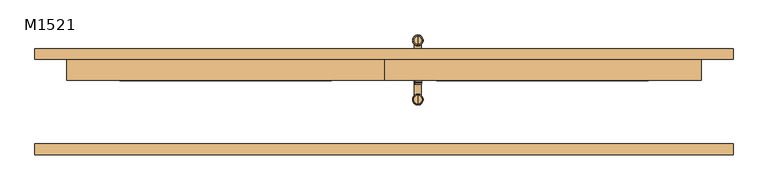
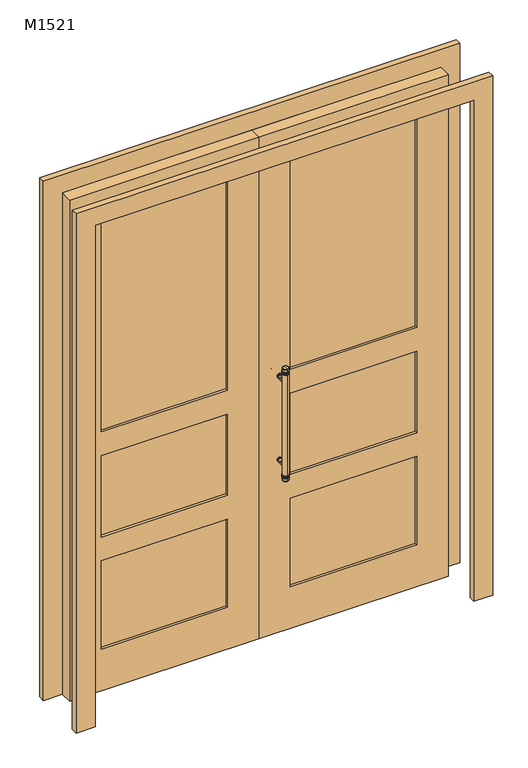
"""IFC4 building model written with IfcOpenShell, lengths in millimetres: door geometry, 双面嵌板木门 2 : M1521."""

from ifc_helpers import new_model, si_unit, point, frame, origin, place, context, project, spatial, polyline, circle_curve, ellipse_curve, trimmed, outline, extrude, source, transform, mapped, element, save
from ifc_brep_helpers import plane_surface, cylinder_surface, revolved_surface, advanced_brep


def m1521_8e1836e7(model_context):
    return source(origin(), model_context, "Body", "SolidModel", [
        advanced_brep(
        [(80.0, 100.0, 1075.0), (72.0, 100.0, 1075.0), (88.0, 100.0, 1075.0), (88.0, 109.0, 1075.0), (72.0, 109.0, 1075.0), (80.0, 109.0, 1075.0), (88.0, 106.0, 1075.0), (72.0, 106.0, 1075.0), (88.0, 103.0, 1075.0), (72.0, 103.0, 1075.0)],
        [
            (0, 1),
            (1, 2, circle_curve(frame((80.0, 100.0, 1075.0), z_axis=(0.0, -1.0, 0.0), x_axis=(-1.0, 0.0, 0.0)), 8.0)),
            (2, 0),
            (2, 1, circle_curve(frame((80.0, 100.0, 1075.0), z_axis=(0.0, -1.0, 0.0), x_axis=(-1.0, 0.0, 0.0)), 8.0)),
            (3, 4, circle_curve(frame((80.0, 109.0, 1075.0), z_axis=(0.0, 1.0, 0.0), x_axis=(-1.0, 0.0, 0.0)), 8.0)),
            (4, 5),
            (5, 3),
            (4, 3, circle_curve(frame((80.0, 109.0, 1075.0), z_axis=(0.0, 1.0, 0.0), x_axis=(-1.0, 0.0, 0.0)), 8.0)),
            (6, 7, circle_curve(frame((80.0, 106.0, 1075.0), z_axis=(0.0, 1.0, 0.0), x_axis=(-1.0, 0.0, 0.0)), 8.0)),
            (7, 4, circle_curve(frame((73.3228757, 107.5, 1075.0), z_axis=(0.0, 0.0, -1.0), x_axis=(-1.0, 0.0, 0.0)), 2.0)),
            (3, 6, circle_curve(frame((86.6771243, 107.5, 1075.0), z_axis=(0.0, 0.0, -1.0), x_axis=(1.0, 0.0, 0.0)), 2.0)),
            (7, 6, circle_curve(frame((80.0, 106.0, 1075.0), z_axis=(0.0, 1.0, 0.0), x_axis=(-1.0, 0.0, 0.0)), 8.0)),
            (8, 9, circle_curve(frame((80.0, 103.0, 1075.0), z_axis=(0.0, 1.0, 0.0), x_axis=(-1.0, 0.0, 0.0)), 8.0)),
            (9, 7, circle_curve(frame((73.3228757, 104.5, 1075.0), z_axis=(0.0, 0.0, -1.0), x_axis=(-1.0, 0.0, 0.0)), 2.0)),
            (6, 8, circle_curve(frame((86.6771243, 104.5, 1075.0), z_axis=(0.0, 0.0, -1.0), x_axis=(1.0, 0.0, 0.0)), 2.0)),
            (9, 8, circle_curve(frame((80.0, 103.0, 1075.0), z_axis=(0.0, 1.0, 0.0), x_axis=(-1.0, 0.0, 0.0)), 8.0)),
            (1, 9, circle_curve(frame((73.3228757, 101.5, 1075.0), z_axis=(0.0, 0.0, -1.0), x_axis=(-1.0, 0.0, 0.0)), 2.0)),
            (8, 2, circle_curve(frame((86.6771243, 101.5, 1075.0), z_axis=(0.0, 0.0, -1.0), x_axis=(1.0, 0.0, 0.0)), 2.0)),
        ],
        [
            plane_surface(frame((80.0, 100.0, 1075.0), z_axis=(0.0, -1.0, 0.0), x_axis=(-1.0, 0.0, 0.0))),
            plane_surface(frame((80.0, 109.0, 1075.0), z_axis=(0.0, 1.0, 0.0), x_axis=(-1.0, 0.0, 0.0))),
            revolved_surface(trimmed(ellipse_curve(frame((73.3228757, 107.5, 1075.0), z_axis=(0.0, 0.0, 1.0), x_axis=(-1.0, 0.0, 0.0)), 2.0, 2.0), [point((72.0, 109.0, 1075.0))], [point((72.0, 106.0, 1075.0))], True, "CARTESIAN"), (80.0, -40.0, 1075.0), (0.0, -1.0, 0.0)),
            revolved_surface(trimmed(ellipse_curve(frame((73.3228757, 104.5, 1075.0), z_axis=(0.0, 0.0, 1.0), x_axis=(-1.0, 0.0, 0.0)), 2.0, 2.0), [point((72.0, 106.0, 1075.0))], [point((72.0, 103.0, 1075.0))], True, "CARTESIAN"), (80.0, -40.0, 1075.0), (0.0, -1.0, 0.0)),
            revolved_surface(trimmed(ellipse_curve(frame((73.3228757, 101.5, 1075.0), z_axis=(0.0, 0.0, 1.0), x_axis=(-1.0, 0.0, 0.0)), 2.0, 2.0), [point((72.0, 103.0, 1075.0))], [point((72.0, 100.0, 1075.0))], True, "CARTESIAN"), (80.0, -40.0, 1075.0), (0.0, -1.0, 0.0)),
        ],
        [
            (0, [[1, 2, 3]]),
            (0, [[-3, 4, -1]]),
            (1, [[5, 6, 7]]),
            (1, [[8, -7, -6]]),
            (2, [[9, 10, -5, 11]]),
            (2, [[12, -11, -8, -10]]),
            (3, [[13, 14, -9, 15]]),
            (3, [[16, -15, -12, -14]]),
            (4, [[-2, 17, -13, 18]]),
            (4, [[-4, -18, -16, -17]]),
        ],
    ),
        advanced_brep(
        [(88.0, 47.0, 1075.0), (72.0, 47.0, 1075.0), (72.0, 50.0, 1075.0), (88.0, 50.0, 1075.0), (88.0, 44.0, 1075.0), (72.0, 44.0, 1075.0), (88.0, 41.0, 1075.0), (72.0, 41.0, 1075.0), (80.0, 41.0, 1075.0), (80.0, 50.0, 1075.0)],
        [
            (0, 1, circle_curve(frame((80.0, 47.0, 1075.0), z_axis=(0.0, 1.0, 0.0), x_axis=(-1.0, 0.0, 0.0)), 8.0)),
            (1, 2, circle_curve(frame((73.3228757, 48.5, 1075.0), z_axis=(0.0, 0.0, -1.0), x_axis=(-1.0, 0.0, 0.0)), 2.0)),
            (2, 3, circle_curve(frame((80.0, 50.0, 1075.0), z_axis=(0.0, -1.0, 0.0), x_axis=(-1.0, 0.0, 0.0)), 8.0)),
            (3, 0, circle_curve(frame((86.6771243, 48.5, 1075.0), z_axis=(0.0, 0.0, -1.0), x_axis=(1.0, 0.0, 0.0)), 2.0)),
            (1, 0, circle_curve(frame((80.0, 47.0, 1075.0), z_axis=(0.0, 1.0, 0.0), x_axis=(-1.0, 0.0, 0.0)), 8.0)),
            (3, 2, circle_curve(frame((80.0, 50.0, 1075.0), z_axis=(0.0, -1.0, 0.0), x_axis=(-1.0, 0.0, 0.0)), 8.0)),
            (4, 5, circle_curve(frame((80.0, 44.0, 1075.0), z_axis=(0.0, 1.0, 0.0), x_axis=(-1.0, 0.0, 0.0)), 8.0)),
            (5, 1, circle_curve(frame((73.3228757, 45.5, 1075.0), z_axis=(0.0, 0.0, -1.0), x_axis=(-1.0, 0.0, 0.0)), 2.0)),
            (0, 4, circle_curve(frame((86.6771243, 45.5, 1075.0), z_axis=(0.0, 0.0, -1.0), x_axis=(1.0, 0.0, 0.0)), 2.0)),
            (5, 4, circle_curve(frame((80.0, 44.0, 1075.0), z_axis=(0.0, 1.0, 0.0), x_axis=(-1.0, 0.0, 0.0)), 8.0)),
            (6, 7, circle_curve(frame((80.0, 41.0, 1075.0), z_axis=(0.0, 1.0, 0.0), x_axis=(-1.0, 0.0, 0.0)), 8.0)),
            (7, 5, circle_curve(frame((73.3228757, 42.5, 1075.0), z_axis=(0.0, 0.0, -1.0), x_axis=(-1.0, 0.0, 0.0)), 2.0)),
            (4, 6, circle_curve(frame((86.6771243, 42.5, 1075.0), z_axis=(0.0, 0.0, -1.0), x_axis=(1.0, 0.0, 0.0)), 2.0)),
            (7, 6, circle_curve(frame((80.0, 41.0, 1075.0), z_axis=(0.0, 1.0, 0.0), x_axis=(-1.0, 0.0, 0.0)), 8.0)),
            (8, 7),
            (6, 8),
            (2, 9),
            (9, 3),
        ],
        [
            revolved_surface(trimmed(ellipse_curve(frame((73.3228757, 48.5, 1075.0), z_axis=(0.0, 0.0, 1.0), x_axis=(-1.0, 0.0, 0.0)), 2.0, 2.0), [point((72.0, 50.0, 1075.0))], [point((72.0, 47.0, 1075.0))], True, "CARTESIAN"), (80.0, -40.0, 1075.0), (0.0, -1.0, 0.0)),
            revolved_surface(trimmed(ellipse_curve(frame((73.3228757, 45.5, 1075.0), z_axis=(0.0, 0.0, 1.0), x_axis=(-1.0, 0.0, 0.0)), 2.0, 2.0), [point((72.0, 47.0, 1075.0))], [point((72.0, 44.0, 1075.0))], True, "CARTESIAN"), (80.0, -40.0, 1075.0), (0.0, -1.0, 0.0)),
            revolved_surface(trimmed(ellipse_curve(frame((73.3228757, 42.5, 1075.0), z_axis=(0.0, 0.0, 1.0), x_axis=(-1.0, 0.0, 0.0)), 2.0, 2.0), [point((72.0, 44.0, 1075.0))], [point((72.0, 41.0, 1075.0))], True, "CARTESIAN"), (80.0, -40.0, 1075.0), (0.0, -1.0, 0.0)),
            plane_surface(frame((80.0, 41.0, 1075.0), z_axis=(0.0, -1.0, 0.0), x_axis=(-1.0, 0.0, 0.0))),
            plane_surface(frame((80.0, 50.0, 1075.0), z_axis=(0.0, 1.0, 0.0), x_axis=(-1.0, 0.0, 0.0))),
        ],
        [
            (0, [[1, 2, 3, 4]]),
            (0, [[5, -4, 6, -2]]),
            (1, [[7, 8, -1, 9]]),
            (1, [[10, -9, -5, -8]]),
            (2, [[11, 12, -7, 13]]),
            (2, [[14, -13, -10, -12]]),
            (3, [[15, -11, 16]]),
            (3, [[-16, -14, -15]]),
            (4, [[-3, 17, 18]]),
            (4, [[-6, -18, -17]]),
        ],
    ),
        advanced_brep(
        [(80.0, 100.0, 725.0), (72.0, 100.0, 725.0), (88.0, 100.0, 725.0), (88.0, 109.0, 725.0), (72.0, 109.0, 725.0), (80.0, 109.0, 725.0), (88.0, 106.0, 725.0), (72.0, 106.0, 725.0), (88.0, 103.0, 725.0), (72.0, 103.0, 725.0)],
        [
            (0, 1),
            (1, 2, circle_curve(frame((80.0, 100.0, 725.0), z_axis=(0.0, -1.0, 0.0), x_axis=(-1.0, 0.0, 0.0)), 8.0)),
            (2, 0),
            (2, 1, circle_curve(frame((80.0, 100.0, 725.0), z_axis=(0.0, -1.0, 0.0), x_axis=(-1.0, 0.0, 0.0)), 8.0)),
            (3, 4, circle_curve(frame((80.0, 109.0, 725.0), z_axis=(0.0, 1.0, 0.0), x_axis=(-1.0, 0.0, 0.0)), 8.0)),
            (4, 5),
            (5, 3),
            (4, 3, circle_curve(frame((80.0, 109.0, 725.0), z_axis=(0.0, 1.0, 0.0), x_axis=(-1.0, 0.0, 0.0)), 8.0)),
            (6, 7, circle_curve(frame((80.0, 106.0, 725.0), z_axis=(0.0, 1.0, 0.0), x_axis=(-1.0, 0.0, 0.0)), 8.0)),
            (7, 4, circle_curve(frame((73.3228757, 107.5, 725.0), z_axis=(0.0, 0.0, -1.0), x_axis=(-1.0, 0.0, 0.0)), 2.0)),
            (3, 6, circle_curve(frame((86.6771243, 107.5, 725.0), z_axis=(0.0, 0.0, -1.0), x_axis=(1.0, 0.0, 0.0)), 2.0)),
            (7, 6, circle_curve(frame((80.0, 106.0, 725.0), z_axis=(0.0, 1.0, 0.0), x_axis=(-1.0, 0.0, 0.0)), 8.0)),
            (8, 9, circle_curve(frame((80.0, 103.0, 725.0), z_axis=(0.0, 1.0, 0.0), x_axis=(-1.0, 0.0, 0.0)), 8.0)),
            (9, 7, circle_curve(frame((73.3228757, 104.5, 725.0), z_axis=(0.0, 0.0, -1.0), x_axis=(-1.0, 0.0, 0.0)), 2.0)),
            (6, 8, circle_curve(frame((86.6771243, 104.5, 725.0), z_axis=(0.0, 0.0, -1.0), x_axis=(1.0, 0.0, 0.0)), 2.0)),
            (9, 8, circle_curve(frame((80.0, 103.0, 725.0), z_axis=(0.0, 1.0, 0.0), x_axis=(-1.0, 0.0, 0.0)), 8.0)),
            (1, 9, circle_curve(frame((73.3228757, 101.5, 725.0), z_axis=(0.0, 0.0, -1.0), x_axis=(-1.0, 0.0, 0.0)), 2.0)),
            (8, 2, circle_curve(frame((86.6771243, 101.5, 725.0), z_axis=(0.0, 0.0, -1.0), x_axis=(1.0, 0.0, 0.0)), 2.0)),
        ],
        [
            plane_surface(frame((80.0, 100.0, 725.0), z_axis=(0.0, -1.0, 0.0), x_axis=(-1.0, 0.0, 0.0))),
            plane_surface(frame((80.0, 109.0, 725.0), z_axis=(0.0, 1.0, 0.0), x_axis=(-1.0, 0.0, 0.0))),
            revolved_surface(trimmed(ellipse_curve(frame((73.3228757, 107.5, 725.0), z_axis=(0.0, 0.0, 1.0), x_axis=(-1.0, 0.0, 0.0)), 2.0, 2.0), [point((72.0, 109.0, 725.0))], [point((72.0, 106.0, 725.0))], True, "CARTESIAN"), (80.0, -40.0, 725.0), (0.0, -1.0, 0.0)),
            revolved_surface(trimmed(ellipse_curve(frame((73.3228757, 104.5, 725.0), z_axis=(0.0, 0.0, 1.0), x_axis=(-1.0, 0.0, 0.0)), 2.0, 2.0), [point((72.0, 106.0, 725.0))], [point((72.0, 103.0, 725.0))], True, "CARTESIAN"), (80.0, -40.0, 725.0), (0.0, -1.0, 0.0)),
            revolved_surface(trimmed(ellipse_curve(frame((73.3228757, 101.5, 725.0), z_axis=(0.0, 0.0, 1.0), x_axis=(-1.0, 0.0, 0.0)), 2.0, 2.0), [point((72.0, 103.0, 725.0))], [point((72.0, 100.0, 725.0))], True, "CARTESIAN"), (80.0, -40.0, 725.0), (0.0, -1.0, 0.0)),
        ],
        [
            (0, [[1, 2, 3]]),
            (0, [[-3, 4, -1]]),
            (1, [[5, 6, 7]]),
            (1, [[8, -7, -6]]),
            (2, [[9, 10, -5, 11]]),
            (2, [[12, -11, -8, -10]]),
            (3, [[13, 14, -9, 15]]),
            (3, [[16, -15, -12, -14]]),
            (4, [[-2, 17, -13, 18]]),
            (4, [[-4, -18, -16, -17]]),
        ],
    ),
        advanced_brep(
        [(88.0, 47.0, 725.0), (72.0, 47.0, 725.0), (72.0, 50.0, 725.0), (88.0, 50.0, 725.0), (88.0, 44.0, 725.0), (72.0, 44.0, 725.0), (88.0, 41.0, 725.0), (72.0, 41.0, 725.0), (80.0, 41.0, 725.0), (80.0, 50.0, 725.0)],
        [
            (0, 1, circle_curve(frame((80.0, 47.0, 725.0), z_axis=(0.0, 1.0, 0.0), x_axis=(-1.0, 0.0, 0.0)), 8.0)),
            (1, 2, circle_curve(frame((73.3228757, 48.5, 725.0), z_axis=(0.0, 0.0, -1.0), x_axis=(-1.0, 0.0, 0.0)), 2.0)),
            (2, 3, circle_curve(frame((80.0, 50.0, 725.0), z_axis=(0.0, -1.0, 0.0), x_axis=(-1.0, 0.0, 0.0)), 8.0)),
            (3, 0, circle_curve(frame((86.6771243, 48.5, 725.0), z_axis=(0.0, 0.0, -1.0), x_axis=(1.0, 0.0, 0.0)), 2.0)),
            (1, 0, circle_curve(frame((80.0, 47.0, 725.0), z_axis=(0.0, 1.0, 0.0), x_axis=(-1.0, 0.0, 0.0)), 8.0)),
            (3, 2, circle_curve(frame((80.0, 50.0, 725.0), z_axis=(0.0, -1.0, 0.0), x_axis=(-1.0, 0.0, 0.0)), 8.0)),
            (4, 5, circle_curve(frame((80.0, 44.0, 725.0), z_axis=(0.0, 1.0, 0.0), x_axis=(-1.0, 0.0, 0.0)), 8.0)),
            (5, 1, circle_curve(frame((73.3228757, 45.5, 725.0), z_axis=(0.0, 0.0, -1.0), x_axis=(-1.0, 0.0, 0.0)), 2.0)),
            (0, 4, circle_curve(frame((86.6771243, 45.5, 725.0), z_axis=(0.0, 0.0, -1.0), x_axis=(1.0, 0.0, 0.0)), 2.0)),
            (5, 4, circle_curve(frame((80.0, 44.0, 725.0), z_axis=(0.0, 1.0, 0.0), x_axis=(-1.0, 0.0, 0.0)), 8.0)),
            (6, 7, circle_curve(frame((80.0, 41.0, 725.0), z_axis=(0.0, 1.0, 0.0), x_axis=(-1.0, 0.0, 0.0)), 8.0)),
            (7, 5, circle_curve(frame((73.3228757, 42.5, 725.0), z_axis=(0.0, 0.0, -1.0), x_axis=(-1.0, 0.0, 0.0)), 2.0)),
            (4, 6, circle_curve(frame((86.6771243, 42.5, 725.0), z_axis=(0.0, 0.0, -1.0), x_axis=(1.0, 0.0, 0.0)), 2.0)),
            (7, 6, circle_curve(frame((80.0, 41.0, 725.0), z_axis=(0.0, 1.0, 0.0), x_axis=(-1.0, 0.0, 0.0)), 8.0)),
            (8, 7),
            (6, 8),
            (2, 9),
            (9, 3),
        ],
        [
            revolved_surface(trimmed(ellipse_curve(frame((73.3228757, 48.5, 725.0), z_axis=(0.0, 0.0, 1.0), x_axis=(-1.0, 0.0, 0.0)), 2.0, 2.0), [point((72.0, 50.0, 725.0))], [point((72.0, 47.0, 725.0))], True, "CARTESIAN"), (80.0, -40.0, 725.0), (0.0, -1.0, 0.0)),
            revolved_surface(trimmed(ellipse_curve(frame((73.3228757, 45.5, 725.0), z_axis=(0.0, 0.0, 1.0), x_axis=(-1.0, 0.0, 0.0)), 2.0, 2.0), [point((72.0, 47.0, 725.0))], [point((72.0, 44.0, 725.0))], True, "CARTESIAN"), (80.0, -40.0, 725.0), (0.0, -1.0, 0.0)),
            revolved_surface(trimmed(ellipse_curve(frame((73.3228757, 42.5, 725.0), z_axis=(0.0, 0.0, 1.0), x_axis=(-1.0, 0.0, 0.0)), 2.0, 2.0), [point((72.0, 44.0, 725.0))], [point((72.0, 41.0, 725.0))], True, "CARTESIAN"), (80.0, -40.0, 725.0), (0.0, -1.0, 0.0)),
            plane_surface(frame((80.0, 41.0, 725.0), z_axis=(0.0, -1.0, 0.0), x_axis=(-1.0, 0.0, 0.0))),
            plane_surface(frame((80.0, 50.0, 725.0), z_axis=(0.0, 1.0, 0.0), x_axis=(-1.0, 0.0, 0.0))),
        ],
        [
            (0, [[1, 2, 3, 4]]),
            (0, [[5, -4, 6, -2]]),
            (1, [[7, 8, -1, 9]]),
            (1, [[10, -9, -5, -8]]),
            (2, [[11, 12, -7, 13]]),
            (2, [[14, -13, -10, -12]]),
            (3, [[15, -11, 16]]),
            (3, [[-16, -14, -15]]),
            (4, [[-3, 17, 18]]),
            (4, [[-6, -18, -17]]),
        ],
    ),
        advanced_brep(
        [(80.0, 133.0, 1111.0), (80.0, 157.0, 1111.0), (80.0, 145.0, 1111.0), (80.0, 133.0, 1114.0), (80.0, 157.0, 1114.0), (80.0, 133.0, 1117.0), (80.0, 157.0, 1117.0), (80.0, 133.0, 1120.0), (80.0, 157.0, 1120.0), (80.0, 133.0, 1123.0), (80.0, 157.0, 1123.0), (80.0, 145.0, 1123.0)],
        [
            (0, 1, circle_curve(frame((80.0, 145.0, 1111.0), z_axis=(0.0, 0.0, -1.0), x_axis=(0.0, 1.0, 0.0)), 12.0)),
            (1, 2),
            (2, 0),
            (1, 0, circle_curve(frame((80.0, 145.0, 1111.0), z_axis=(0.0, 0.0, -1.0), x_axis=(0.0, 1.0, 0.0)), 12.0)),
            (3, 4, circle_curve(frame((80.0, 145.0, 1114.0), z_axis=(0.0, 0.0, -1.0), x_axis=(0.0, 1.0, 0.0)), 12.0)),
            (4, 1, circle_curve(frame((80.0, 155.6771243, 1112.5), z_axis=(-1.0, 0.0, 0.0), x_axis=(0.0, 1.0, 0.0)), 2.0)),
            (0, 3, circle_curve(frame((80.0, 134.3228757, 1112.5), z_axis=(-1.0, 0.0, 0.0), x_axis=(0.0, -1.0, 0.0)), 2.0)),
            (4, 3, circle_curve(frame((80.0, 145.0, 1114.0), z_axis=(0.0, 0.0, -1.0), x_axis=(0.0, 1.0, 0.0)), 12.0)),
            (5, 6, circle_curve(frame((80.0, 145.0, 1117.0), z_axis=(0.0, 0.0, -1.0), x_axis=(0.0, 1.0, 0.0)), 12.0)),
            (6, 4, circle_curve(frame((80.0, 155.6771243, 1115.5), z_axis=(-1.0, 0.0, 0.0), x_axis=(0.0, 1.0, 0.0)), 2.0)),
            (3, 5, circle_curve(frame((80.0, 134.3228757, 1115.5), z_axis=(-1.0, 0.0, 0.0), x_axis=(0.0, -1.0, 0.0)), 2.0)),
            (6, 5, circle_curve(frame((80.0, 145.0, 1117.0), z_axis=(0.0, 0.0, -1.0), x_axis=(0.0, 1.0, 0.0)), 12.0)),
            (7, 8, circle_curve(frame((80.0, 145.0, 1120.0), z_axis=(0.0, 0.0, -1.0), x_axis=(0.0, 1.0, 0.0)), 12.0)),
            (8, 6, circle_curve(frame((80.0, 155.6771243, 1118.5), z_axis=(-1.0, 0.0, 0.0), x_axis=(0.0, 1.0, 0.0)), 2.0)),
            (5, 7, circle_curve(frame((80.0, 134.3228757, 1118.5), z_axis=(-1.0, 0.0, 0.0), x_axis=(0.0, -1.0, 0.0)), 2.0)),
            (8, 7, circle_curve(frame((80.0, 145.0, 1120.0), z_axis=(0.0, 0.0, -1.0), x_axis=(0.0, 1.0, 0.0)), 12.0)),
            (9, 10, circle_curve(frame((80.0, 145.0, 1123.0), z_axis=(0.0, 0.0, -1.0), x_axis=(0.0, 1.0, 0.0)), 12.0)),
            (10, 8, circle_curve(frame((80.0, 155.6771243, 1121.5), z_axis=(-1.0, 0.0, 0.0), x_axis=(0.0, 1.0, 0.0)), 2.0)),
            (7, 9, circle_curve(frame((80.0, 134.3228757, 1121.5), z_axis=(-1.0, 0.0, 0.0), x_axis=(0.0, -1.0, 0.0)), 2.0)),
            (10, 9, circle_curve(frame((80.0, 145.0, 1123.0), z_axis=(0.0, 0.0, -1.0), x_axis=(0.0, 1.0, 0.0)), 12.0)),
            (11, 10),
            (9, 11),
        ],
        [
            plane_surface(frame((80.0, 145.0, 1111.0), z_axis=(0.0, 0.0, -1.0), x_axis=(0.0, 1.0, 0.0))),
            revolved_surface(trimmed(ellipse_curve(frame((80.0, 155.6771243, 1112.5), z_axis=(1.0, 0.0, 0.0), x_axis=(0.0, 1.0, 0.0)), 2.0, 2.0), [point((80.0, 157.0, 1111.0))], [point((80.0, 157.0, 1114.0))], True, "CARTESIAN"), (80.0, 145.0, 715.0), (0.0, 0.0, 1.0)),
            revolved_surface(trimmed(ellipse_curve(frame((80.0, 155.6771243, 1115.5), z_axis=(1.0, 0.0, 0.0), x_axis=(0.0, 1.0, 0.0)), 2.0, 2.0), [point((80.0, 157.0, 1114.0))], [point((80.0, 157.0, 1117.0))], True, "CARTESIAN"), (80.0, 145.0, 715.0), (0.0, 0.0, 1.0)),
            revolved_surface(trimmed(ellipse_curve(frame((80.0, 155.6771243, 1118.5), z_axis=(1.0, 0.0, 0.0), x_axis=(0.0, 1.0, 0.0)), 2.0, 2.0), [point((80.0, 157.0, 1117.0))], [point((80.0, 157.0, 1120.0))], True, "CARTESIAN"), (80.0, 145.0, 715.0), (0.0, 0.0, 1.0)),
            revolved_surface(trimmed(ellipse_curve(frame((80.0, 155.6771243, 1121.5), z_axis=(1.0, 0.0, 0.0), x_axis=(0.0, 1.0, 0.0)), 2.0, 2.0), [point((80.0, 157.0, 1120.0))], [point((80.0, 157.0, 1123.0))], True, "CARTESIAN"), (80.0, 145.0, 715.0), (0.0, 0.0, 1.0)),
            plane_surface(frame((80.0, 145.0, 1123.0), z_axis=(0.0, 0.0, 1.0), x_axis=(0.0, 1.0, 0.0))),
        ],
        [
            (0, [[1, 2, 3]]),
            (0, [[4, -3, -2]]),
            (1, [[5, 6, -1, 7]]),
            (1, [[8, -7, -4, -6]]),
            (2, [[9, 10, -5, 11]]),
            (2, [[12, -11, -8, -10]]),
            (3, [[13, 14, -9, 15]]),
            (3, [[16, -15, -12, -14]]),
            (4, [[17, 18, -13, 19]]),
            (4, [[20, -19, -16, -18]]),
            (5, [[21, -17, 22]]),
            (5, [[-22, -20, -21]]),
        ],
    ),
        advanced_brep(
        [(80.0, 133.0, 677.0), (80.0, 157.0, 677.0), (80.0, 145.0, 677.0), (80.0, 133.0, 680.0), (80.0, 157.0, 680.0), (80.0, 133.0, 683.0), (80.0, 157.0, 683.0), (80.0, 133.0, 686.0), (80.0, 157.0, 686.0), (80.0, 133.0, 689.0), (80.0, 157.0, 689.0), (80.0, 145.0, 689.0)],
        [
            (0, 1, circle_curve(frame((80.0, 145.0, 677.0), z_axis=(0.0, 0.0, -1.0), x_axis=(0.0, 1.0, 0.0)), 12.0)),
            (1, 2),
            (2, 0),
            (1, 0, circle_curve(frame((80.0, 145.0, 677.0), z_axis=(0.0, 0.0, -1.0), x_axis=(0.0, 1.0, 0.0)), 12.0)),
            (3, 4, circle_curve(frame((80.0, 145.0, 680.0), z_axis=(0.0, 0.0, -1.0), x_axis=(0.0, 1.0, 0.0)), 12.0)),
            (4, 1, circle_curve(frame((80.0, 155.6771243, 678.5), z_axis=(-1.0, 0.0, 0.0), x_axis=(0.0, 1.0, 0.0)), 2.0)),
            (0, 3, circle_curve(frame((80.0, 134.3228757, 678.5), z_axis=(-1.0, 0.0, 0.0), x_axis=(0.0, -1.0, 0.0)), 2.0)),
            (4, 3, circle_curve(frame((80.0, 145.0, 680.0), z_axis=(0.0, 0.0, -1.0), x_axis=(0.0, 1.0, 0.0)), 12.0)),
            (5, 6, circle_curve(frame((80.0, 145.0, 683.0), z_axis=(0.0, 0.0, -1.0), x_axis=(0.0, 1.0, 0.0)), 12.0)),
            (6, 4, circle_curve(frame((80.0, 155.6771243, 681.5), z_axis=(-1.0, 0.0, 0.0), x_axis=(0.0, 1.0, 0.0)), 2.0)),
            (3, 5, circle_curve(frame((80.0, 134.3228757, 681.5), z_axis=(-1.0, 0.0, 0.0), x_axis=(0.0, -1.0, 0.0)), 2.0)),
            (6, 5, circle_curve(frame((80.0, 145.0, 683.0), z_axis=(0.0, 0.0, -1.0), x_axis=(0.0, 1.0, 0.0)), 12.0)),
            (7, 8, circle_curve(frame((80.0, 145.0, 686.0), z_axis=(0.0, 0.0, -1.0), x_axis=(0.0, 1.0, 0.0)), 12.0)),
            (8, 6, circle_curve(frame((80.0, 155.6771243, 684.5), z_axis=(-1.0, 0.0, 0.0), x_axis=(0.0, 1.0, 0.0)), 2.0)),
            (5, 7, circle_curve(frame((80.0, 134.3228757, 684.5), z_axis=(-1.0, 0.0, 0.0), x_axis=(0.0, -1.0, 0.0)), 2.0)),
            (8, 7, circle_curve(frame((80.0, 145.0, 686.0), z_axis=(0.0, 0.0, -1.0), x_axis=(0.0, 1.0, 0.0)), 12.0)),
            (9, 10, circle_curve(frame((80.0, 145.0, 689.0), z_axis=(0.0, 0.0, -1.0), x_axis=(0.0, 1.0, 0.0)), 12.0)),
            (10, 8, circle_curve(frame((80.0, 155.6771243, 687.5), z_axis=(-1.0, 0.0, 0.0), x_axis=(0.0, 1.0, 0.0)), 2.0)),
            (7, 9, circle_curve(frame((80.0, 134.3228757, 687.5), z_axis=(-1.0, 0.0, 0.0), x_axis=(0.0, -1.0, 0.0)), 2.0)),
            (10, 9, circle_curve(frame((80.0, 145.0, 689.0), z_axis=(0.0, 0.0, -1.0), x_axis=(0.0, 1.0, 0.0)), 12.0)),
            (11, 10),
            (9, 11),
        ],
        [
            plane_surface(frame((80.0, 145.0, 677.0), z_axis=(0.0, 0.0, -1.0), x_axis=(0.0, 1.0, 0.0))),
            revolved_surface(trimmed(ellipse_curve(frame((80.0, 155.6771243, 678.5), z_axis=(1.0, 0.0, 0.0), x_axis=(0.0, 1.0, 0.0)), 2.0, 2.0), [point((80.0, 157.0, 677.0))], [point((80.0, 157.0, 680.0))], True, "CARTESIAN"), (80.0, 145.0, 715.0), (0.0, 0.0, 1.0)),
            revolved_surface(trimmed(ellipse_curve(frame((80.0, 155.6771243, 681.5), z_axis=(1.0, 0.0, 0.0), x_axis=(0.0, 1.0, 0.0)), 2.0, 2.0), [point((80.0, 157.0, 680.0))], [point((80.0, 157.0, 683.0))], True, "CARTESIAN"), (80.0, 145.0, 715.0), (0.0, 0.0, 1.0)),
            revolved_surface(trimmed(ellipse_curve(frame((80.0, 155.6771243, 684.5), z_axis=(1.0, 0.0, 0.0), x_axis=(0.0, 1.0, 0.0)), 2.0, 2.0), [point((80.0, 157.0, 683.0))], [point((80.0, 157.0, 686.0))], True, "CARTESIAN"), (80.0, 145.0, 715.0), (0.0, 0.0, 1.0)),
            revolved_surface(trimmed(ellipse_curve(frame((80.0, 155.6771243, 687.5), z_axis=(1.0, 0.0, 0.0), x_axis=(0.0, 1.0, 0.0)), 2.0, 2.0), [point((80.0, 157.0, 686.0))], [point((80.0, 157.0, 689.0))], True, "CARTESIAN"), (80.0, 145.0, 715.0), (0.0, 0.0, 1.0)),
            plane_surface(frame((80.0, 145.0, 689.0), z_axis=(0.0, 0.0, 1.0), x_axis=(0.0, 1.0, 0.0))),
        ],
        [
            (0, [[1, 2, 3]]),
            (0, [[4, -3, -2]]),
            (1, [[5, 6, -1, 7]]),
            (1, [[8, -7, -4, -6]]),
            (2, [[9, 10, -5, 11]]),
            (2, [[12, -11, -8, -10]]),
            (3, [[13, 14, -9, 15]]),
            (3, [[16, -15, -12, -14]]),
            (4, [[17, 18, -13, 19]]),
            (4, [[20, -19, -16, -18]]),
            (5, [[21, -17, 22]]),
            (5, [[-22, -20, -21]]),
        ],
    ),
        advanced_brep(
        [(80.0, 17.0, 1119.8958565), (80.0, -7.0, 1119.8958565), (80.0, -7.0, 1122.8958565), (80.0, 17.0, 1122.8958565), (80.0, 17.0, 1116.8958565), (80.0, -7.0, 1116.8958565), (80.0, 17.0, 1113.8958565), (80.0, -7.0, 1113.8958565), (80.0, 17.0, 1110.8958565), (80.0, -7.0, 1110.8958565), (80.0, 5.0, 1110.8958565), (80.0, 5.0, 1122.8958565)],
        [
            (0, 1, circle_curve(frame((80.0, 5.0, 1119.8958565), z_axis=(0.0, 0.0, 1.0), x_axis=(0.0, -1.0, 0.0)), 12.0)),
            (1, 2, circle_curve(frame((80.0, -5.6771243, 1121.3958565), z_axis=(-1.0, 0.0, 0.0), x_axis=(0.0, 1.0, 0.0)), 2.0)),
            (2, 3, circle_curve(frame((80.0, 5.0, 1122.8958565), z_axis=(0.0, 0.0, -1.0), x_axis=(0.0, -1.0, 0.0)), 12.0)),
            (3, 0, circle_curve(frame((80.0, 15.6771243, 1121.3958565), z_axis=(-1.0, 0.0, 0.0), x_axis=(0.0, -1.0, 0.0)), 2.0)),
            (1, 0, circle_curve(frame((80.0, 5.0, 1119.8958565), z_axis=(0.0, 0.0, 1.0), x_axis=(0.0, -1.0, 0.0)), 12.0)),
            (3, 2, circle_curve(frame((80.0, 5.0, 1122.8958565), z_axis=(0.0, 0.0, -1.0), x_axis=(0.0, -1.0, 0.0)), 12.0)),
            (4, 5, circle_curve(frame((80.0, 5.0, 1116.8958565), z_axis=(0.0, 0.0, 1.0), x_axis=(0.0, -1.0, 0.0)), 12.0)),
            (5, 1, circle_curve(frame((80.0, -5.6771243, 1118.3958565), z_axis=(-1.0, 0.0, 0.0), x_axis=(0.0, 1.0, 0.0)), 2.0)),
            (0, 4, circle_curve(frame((80.0, 15.6771243, 1118.3958565), z_axis=(-1.0, 0.0, 0.0), x_axis=(0.0, -1.0, 0.0)), 2.0)),
            (5, 4, circle_curve(frame((80.0, 5.0, 1116.8958565), z_axis=(0.0, 0.0, 1.0), x_axis=(0.0, -1.0, 0.0)), 12.0)),
            (6, 7, circle_curve(frame((80.0, 5.0, 1113.8958565), z_axis=(0.0, 0.0, 1.0), x_axis=(0.0, -1.0, 0.0)), 12.0)),
            (7, 5, circle_curve(frame((80.0, -5.6771243, 1115.3958565), z_axis=(-1.0, 0.0, 0.0), x_axis=(0.0, 1.0, 0.0)), 2.0)),
            (4, 6, circle_curve(frame((80.0, 15.6771243, 1115.3958565), z_axis=(-1.0, 0.0, 0.0), x_axis=(0.0, -1.0, 0.0)), 2.0)),
            (7, 6, circle_curve(frame((80.0, 5.0, 1113.8958565), z_axis=(0.0, 0.0, 1.0), x_axis=(0.0, -1.0, 0.0)), 12.0)),
            (8, 9, circle_curve(frame((80.0, 5.0, 1110.8958565), z_axis=(0.0, 0.0, 1.0), x_axis=(0.0, -1.0, 0.0)), 12.0)),
            (9, 7, circle_curve(frame((80.0, -5.6771243, 1112.3958565), z_axis=(-1.0, 0.0, 0.0), x_axis=(0.0, 1.0, 0.0)), 2.0)),
            (6, 8, circle_curve(frame((80.0, 15.6771243, 1112.3958565), z_axis=(-1.0, 0.0, 0.0), x_axis=(0.0, -1.0, 0.0)), 2.0)),
            (9, 8, circle_curve(frame((80.0, 5.0, 1110.8958565), z_axis=(0.0, 0.0, 1.0), x_axis=(0.0, -1.0, 0.0)), 12.0)),
            (10, 9),
            (8, 10),
            (2, 11),
            (11, 3),
        ],
        [
            revolved_surface(trimmed(ellipse_curve(frame((80.0, -5.6771243, 1121.3958565), z_axis=(1.0, 0.0, 0.0), x_axis=(0.0, 1.0, 0.0)), 2.0, 2.0), [point((80.0, -7.0, 1122.8958565))], [point((80.0, -7.0, 1119.8958565))], True, "CARTESIAN"), (80.0, 5.0, 715.0), (0.0, 0.0, -1.0)),
            revolved_surface(trimmed(ellipse_curve(frame((80.0, -5.6771243, 1118.3958565), z_axis=(1.0, 0.0, 0.0), x_axis=(0.0, 1.0, 0.0)), 2.0, 2.0), [point((80.0, -7.0, 1119.8958565))], [point((80.0, -7.0, 1116.8958565))], True, "CARTESIAN"), (80.0, 5.0, 715.0), (0.0, 0.0, -1.0)),
            revolved_surface(trimmed(ellipse_curve(frame((80.0, -5.6771243, 1115.3958565), z_axis=(1.0, 0.0, 0.0), x_axis=(0.0, 1.0, 0.0)), 2.0, 2.0), [point((80.0, -7.0, 1116.8958565))], [point((80.0, -7.0, 1113.8958565))], True, "CARTESIAN"), (80.0, 5.0, 715.0), (0.0, 0.0, -1.0)),
            revolved_surface(trimmed(ellipse_curve(frame((80.0, -5.6771243, 1112.3958565), z_axis=(1.0, 0.0, 0.0), x_axis=(0.0, 1.0, 0.0)), 2.0, 2.0), [point((80.0, -7.0, 1113.8958565))], [point((80.0, -7.0, 1110.8958565))], True, "CARTESIAN"), (80.0, 5.0, 715.0), (0.0, 0.0, -1.0)),
            plane_surface(frame((80.0, 5.0, 1110.8958565), z_axis=(0.0, 0.0, -1.0), x_axis=(0.0, -1.0, 0.0))),
            plane_surface(frame((80.0, 5.0, 1122.8958565), z_axis=(0.0, 0.0, 1.0), x_axis=(0.0, -1.0, 0.0))),
        ],
        [
            (0, [[1, 2, 3, 4]]),
            (0, [[5, -4, 6, -2]]),
            (1, [[7, 8, -1, 9]]),
            (1, [[10, -9, -5, -8]]),
            (2, [[11, 12, -7, 13]]),
            (2, [[14, -13, -10, -12]]),
            (3, [[15, 16, -11, 17]]),
            (3, [[18, -17, -14, -16]]),
            (4, [[19, -15, 20]]),
            (4, [[-20, -18, -19]]),
            (5, [[-3, 21, 22]]),
            (5, [[-6, -22, -21]]),
        ],
    ),
        advanced_brep(
        [(80.0, 17.0, 689.0), (80.0, -7.0, 689.0), (80.0, 5.0, 689.0), (80.0, 17.0, 686.0), (80.0, -7.0, 686.0), (80.0, 17.0, 683.0), (80.0, -7.0, 683.0), (80.0, 17.0, 680.0), (80.0, -7.0, 680.0), (80.0, 17.0, 677.0), (80.0, -7.0, 677.0), (80.0, 5.0, 677.0)],
        [
            (0, 1, circle_curve(frame((80.0, 5.0, 689.0), z_axis=(0.0, 0.0, 1.0), x_axis=(0.0, -1.0, 0.0)), 12.0)),
            (1, 2),
            (2, 0),
            (1, 0, circle_curve(frame((80.0, 5.0, 689.0), z_axis=(0.0, 0.0, 1.0), x_axis=(0.0, -1.0, 0.0)), 12.0)),
            (3, 4, circle_curve(frame((80.0, 5.0, 686.0), z_axis=(0.0, 0.0, 1.0), x_axis=(0.0, -1.0, 0.0)), 12.0)),
            (4, 1, circle_curve(frame((80.0, -5.6771243, 687.5), z_axis=(-1.0, 0.0, 0.0), x_axis=(0.0, 1.0, 0.0)), 2.0)),
            (0, 3, circle_curve(frame((80.0, 15.6771243, 687.5), z_axis=(-1.0, 0.0, 0.0), x_axis=(0.0, -1.0, 0.0)), 2.0)),
            (4, 3, circle_curve(frame((80.0, 5.0, 686.0), z_axis=(0.0, 0.0, 1.0), x_axis=(0.0, -1.0, 0.0)), 12.0)),
            (5, 6, circle_curve(frame((80.0, 5.0, 683.0), z_axis=(0.0, 0.0, 1.0), x_axis=(0.0, -1.0, 0.0)), 12.0)),
            (6, 4, circle_curve(frame((80.0, -5.6771243, 684.5), z_axis=(-1.0, 0.0, 0.0), x_axis=(0.0, 1.0, 0.0)), 2.0)),
            (3, 5, circle_curve(frame((80.0, 15.6771243, 684.5), z_axis=(-1.0, 0.0, 0.0), x_axis=(0.0, -1.0, 0.0)), 2.0)),
            (6, 5, circle_curve(frame((80.0, 5.0, 683.0), z_axis=(0.0, 0.0, 1.0), x_axis=(0.0, -1.0, 0.0)), 12.0)),
            (7, 8, circle_curve(frame((80.0, 5.0, 680.0), z_axis=(0.0, 0.0, 1.0), x_axis=(0.0, -1.0, 0.0)), 12.0)),
            (8, 6, circle_curve(frame((80.0, -5.6771243, 681.5), z_axis=(-1.0, 0.0, 0.0), x_axis=(0.0, 1.0, 0.0)), 2.0)),
            (5, 7, circle_curve(frame((80.0, 15.6771243, 681.5), z_axis=(-1.0, 0.0, 0.0), x_axis=(0.0, -1.0, 0.0)), 2.0)),
            (8, 7, circle_curve(frame((80.0, 5.0, 680.0), z_axis=(0.0, 0.0, 1.0), x_axis=(0.0, -1.0, 0.0)), 12.0)),
            (9, 10, circle_curve(frame((80.0, 5.0, 677.0), z_axis=(0.0, 0.0, 1.0), x_axis=(0.0, -1.0, 0.0)), 12.0)),
            (10, 8, circle_curve(frame((80.0, -5.6771243, 678.5), z_axis=(-1.0, 0.0, 0.0), x_axis=(0.0, 1.0, 0.0)), 2.0)),
            (7, 9, circle_curve(frame((80.0, 15.6771243, 678.5), z_axis=(-1.0, 0.0, 0.0), x_axis=(0.0, -1.0, 0.0)), 2.0)),
            (10, 9, circle_curve(frame((80.0, 5.0, 677.0), z_axis=(0.0, 0.0, 1.0), x_axis=(0.0, -1.0, 0.0)), 12.0)),
            (11, 10),
            (9, 11),
        ],
        [
            plane_surface(frame((80.0, 5.0, 689.0), z_axis=(0.0, 0.0, 1.0), x_axis=(0.0, -1.0, 0.0))),
            revolved_surface(trimmed(ellipse_curve(frame((80.0, -5.6771243, 687.5), z_axis=(1.0, 0.0, 0.0), x_axis=(0.0, 1.0, 0.0)), 2.0, 2.0), [point((80.0, -7.0, 689.0))], [point((80.0, -7.0, 686.0))], True, "CARTESIAN"), (80.0, 5.0, 715.0), (0.0, 0.0, -1.0)),
            revolved_surface(trimmed(ellipse_curve(frame((80.0, -5.6771243, 684.5), z_axis=(1.0, 0.0, 0.0), x_axis=(0.0, 1.0, 0.0)), 2.0, 2.0), [point((80.0, -7.0, 686.0))], [point((80.0, -7.0, 683.0))], True, "CARTESIAN"), (80.0, 5.0, 715.0), (0.0, 0.0, -1.0)),
            revolved_surface(trimmed(ellipse_curve(frame((80.0, -5.6771243, 681.5), z_axis=(1.0, 0.0, 0.0), x_axis=(0.0, 1.0, 0.0)), 2.0, 2.0), [point((80.0, -7.0, 683.0))], [point((80.0, -7.0, 680.0))], True, "CARTESIAN"), (80.0, 5.0, 715.0), (0.0, 0.0, -1.0)),
            revolved_surface(trimmed(ellipse_curve(frame((80.0, -5.6771243, 678.5), z_axis=(1.0, 0.0, 0.0), x_axis=(0.0, 1.0, 0.0)), 2.0, 2.0), [point((80.0, -7.0, 680.0))], [point((80.0, -7.0, 677.0))], True, "CARTESIAN"), (80.0, 5.0, 715.0), (0.0, 0.0, -1.0)),
            plane_surface(frame((80.0, 5.0, 677.0), z_axis=(0.0, 0.0, -1.0), x_axis=(0.0, -1.0, 0.0))),
        ],
        [
            (0, [[1, 2, 3]]),
            (0, [[4, -3, -2]]),
            (1, [[5, 6, -1, 7]]),
            (1, [[8, -7, -4, -6]]),
            (2, [[9, 10, -5, 11]]),
            (2, [[12, -11, -8, -10]]),
            (3, [[13, 14, -9, 15]]),
            (3, [[16, -15, -12, -14]]),
            (4, [[17, 18, -13, 19]]),
            (4, [[20, -19, -16, -18]]),
            (5, [[21, -17, 22]]),
            (5, [[-22, -20, -21]]),
        ],
    ),
        advanced_brep(
        [(80.0, 133.0, 667.0), (80.0, 157.0, 667.0), (80.0, 155.0, 665.0), (80.0, 135.0, 665.0), (80.0, 133.0, 1133.0), (80.0, 157.0, 1133.0), (80.0, 135.0, 1135.0), (80.0, 155.0, 1135.0), (80.0, 145.0, 1135.0), (80.0, 145.0, 665.0)],
        [
            (0, 1, circle_curve(frame((80.0, 145.0, 667.0), z_axis=(0.0, 0.0, -1.0), x_axis=(0.0, 1.0, 0.0)), 12.0)),
            (1, 2, circle_curve(frame((80.0, 155.0, 667.0), z_axis=(-1.0, 0.0, 0.0), x_axis=(0.0, 1.0, 0.0)), 2.0)),
            (2, 3, circle_curve(frame((80.0, 145.0, 665.0), z_axis=(0.0, 0.0, 1.0), x_axis=(0.0, 1.0, 0.0)), 10.0)),
            (3, 0, circle_curve(frame((80.0, 135.0, 667.0), z_axis=(-1.0, 0.0, 0.0), x_axis=(0.0, -1.0, 0.0)), 2.0)),
            (1, 0, circle_curve(frame((80.0, 145.0, 667.0), z_axis=(0.0, 0.0, -1.0), x_axis=(0.0, 1.0, 0.0)), 12.0)),
            (3, 2, circle_curve(frame((80.0, 145.0, 665.0), z_axis=(0.0, 0.0, 1.0), x_axis=(0.0, 1.0, 0.0)), 10.0)),
            (4, 5, circle_curve(frame((80.0, 145.0, 1133.0), z_axis=(0.0, 0.0, -1.0), x_axis=(0.0, 1.0, 0.0)), 12.0)),
            (5, 1),
            (0, 4),
            (5, 4, circle_curve(frame((80.0, 145.0, 1133.0), z_axis=(0.0, 0.0, -1.0), x_axis=(0.0, 1.0, 0.0)), 12.0)),
            (6, 7, circle_curve(frame((80.0, 145.0, 1135.0), z_axis=(0.0, 0.0, -1.0), x_axis=(0.0, 1.0, 0.0)), 10.0)),
            (7, 5, circle_curve(frame((80.0, 155.0, 1133.0), z_axis=(-1.0, 0.0, 0.0), x_axis=(0.0, 1.0, 0.0)), 2.0)),
            (4, 6, circle_curve(frame((80.0, 135.0, 1133.0), z_axis=(-1.0, 0.0, 0.0), x_axis=(0.0, -1.0, 0.0)), 2.0)),
            (7, 6, circle_curve(frame((80.0, 145.0, 1135.0), z_axis=(0.0, 0.0, -1.0), x_axis=(0.0, 1.0, 0.0)), 10.0)),
            (8, 7),
            (6, 8),
            (2, 9),
            (9, 3),
        ],
        [
            revolved_surface(trimmed(ellipse_curve(frame((80.0, 155.0, 667.0), z_axis=(1.0, 0.0, 0.0), x_axis=(0.0, 1.0, 0.0)), 2.0, 2.0), [point((80.0, 155.0, 665.0))], [point((80.0, 157.0, 667.0))], True, "CARTESIAN"), (80.0, 145.0, 715.0), (0.0, 0.0, 1.0)),
            cylinder_surface(frame((80.0, 145.0, 715.0), z_axis=(0.0, 0.0, 1.0), x_axis=(0.0, 1.0, 0.0)), 12.0),
            revolved_surface(trimmed(ellipse_curve(frame((80.0, 155.0, 1133.0), z_axis=(1.0, 0.0, 0.0), x_axis=(0.0, 1.0, 0.0)), 2.0, 2.0), [point((80.0, 157.0, 1133.0))], [point((80.0, 155.0, 1135.0))], True, "CARTESIAN"), (80.0, 145.0, 715.0), (0.0, 0.0, 1.0)),
            plane_surface(frame((80.0, 145.0, 1135.0), z_axis=(0.0, 0.0, 1.0), x_axis=(0.0, 1.0, 0.0))),
            plane_surface(frame((80.0, 145.0, 665.0), z_axis=(0.0, 0.0, -1.0), x_axis=(0.0, 1.0, 0.0))),
        ],
        [
            (0, [[1, 2, 3, 4]]),
            (0, [[5, -4, 6, -2]]),
            (1, [[7, 8, -1, 9]]),
            (1, [[10, -9, -5, -8]]),
            (2, [[11, 12, -7, 13]]),
            (2, [[14, -13, -10, -12]]),
            (3, [[15, -11, 16]]),
            (3, [[-16, -14, -15]]),
            (4, [[-3, 17, 18]]),
            (4, [[-6, -18, -17]]),
        ],
    ),
        advanced_brep(
        [(80.0, 5.0, 665.0), (80.0, -5.0, 665.0), (80.0, 15.0, 665.0), (80.0, 15.0, 1135.0), (80.0, -5.0, 1135.0), (80.0, 5.0, 1135.0), (80.0, 17.0, 1133.0), (80.0, -7.0, 1133.0), (80.0, 17.0, 667.0), (80.0, -7.0, 667.0)],
        [
            (0, 1),
            (1, 2, circle_curve(frame((80.0, 5.0, 665.0), z_axis=(0.0, 0.0, -1.0), x_axis=(0.0, -1.0, 0.0)), 10.0)),
            (2, 0),
            (2, 1, circle_curve(frame((80.0, 5.0, 665.0), z_axis=(0.0, 0.0, -1.0), x_axis=(0.0, -1.0, 0.0)), 10.0)),
            (3, 4, circle_curve(frame((80.0, 5.0, 1135.0), z_axis=(0.0, 0.0, 1.0), x_axis=(0.0, -1.0, 0.0)), 10.0)),
            (4, 5),
            (5, 3),
            (4, 3, circle_curve(frame((80.0, 5.0, 1135.0), z_axis=(0.0, 0.0, 1.0), x_axis=(0.0, -1.0, 0.0)), 10.0)),
            (6, 7, circle_curve(frame((80.0, 5.0, 1133.0), z_axis=(0.0, 0.0, 1.0), x_axis=(0.0, -1.0, 0.0)), 12.0)),
            (7, 4, circle_curve(frame((80.0, -5.0, 1133.0), z_axis=(-1.0, 0.0, 0.0), x_axis=(0.0, 1.0, 0.0)), 2.0)),
            (3, 6, circle_curve(frame((80.0, 15.0, 1133.0), z_axis=(-1.0, 0.0, 0.0), x_axis=(0.0, -1.0, 0.0)), 2.0)),
            (7, 6, circle_curve(frame((80.0, 5.0, 1133.0), z_axis=(0.0, 0.0, 1.0), x_axis=(0.0, -1.0, 0.0)), 12.0)),
            (8, 9, circle_curve(frame((80.0, 5.0, 667.0), z_axis=(0.0, 0.0, 1.0), x_axis=(0.0, -1.0, 0.0)), 12.0)),
            (9, 7),
            (6, 8),
            (9, 8, circle_curve(frame((80.0, 5.0, 667.0), z_axis=(0.0, 0.0, 1.0), x_axis=(0.0, -1.0, 0.0)), 12.0)),
            (1, 9, circle_curve(frame((80.0, -5.0, 667.0), z_axis=(-1.0, 0.0, 0.0), x_axis=(0.0, 1.0, 0.0)), 2.0)),
            (8, 2, circle_curve(frame((80.0, 15.0, 667.0), z_axis=(-1.0, 0.0, 0.0), x_axis=(0.0, -1.0, 0.0)), 2.0)),
        ],
        [
            plane_surface(frame((80.0, 5.0, 665.0), z_axis=(0.0, 0.0, -1.0), x_axis=(0.0, -1.0, 0.0))),
            plane_surface(frame((80.0, 5.0, 1135.0), z_axis=(0.0, 0.0, 1.0), x_axis=(0.0, -1.0, 0.0))),
            revolved_surface(trimmed(ellipse_curve(frame((80.0, -5.0, 1133.0), z_axis=(1.0, 0.0, 0.0), x_axis=(0.0, 1.0, 0.0)), 2.0, 2.0), [point((80.0, -5.0, 1135.0))], [point((80.0, -7.0, 1133.0))], True, "CARTESIAN"), (80.0, 5.0, 715.0), (0.0, 0.0, -1.0)),
            cylinder_surface(frame((80.0, 5.0, 715.0), z_axis=(0.0, 0.0, -1.0), x_axis=(0.0, -1.0, 0.0)), 12.0),
            revolved_surface(trimmed(ellipse_curve(frame((80.0, -5.0, 667.0), z_axis=(1.0, 0.0, 0.0), x_axis=(0.0, 1.0, 0.0)), 2.0, 2.0), [point((80.0, -7.0, 667.0))], [point((80.0, -5.0, 665.0))], True, "CARTESIAN"), (80.0, 5.0, 715.0), (0.0, 0.0, -1.0)),
        ],
        [
            (0, [[1, 2, 3]]),
            (0, [[-3, 4, -1]]),
            (1, [[5, 6, 7]]),
            (1, [[8, -7, -6]]),
            (2, [[9, 10, -5, 11]]),
            (2, [[12, -11, -8, -10]]),
            (3, [[13, 14, -9, 15]]),
            (3, [[16, -15, -12, -14]]),
            (4, [[-2, 17, -13, 18]]),
            (4, [[-4, -18, -16, -17]]),
        ],
    ),
        advanced_brep(
        [(88.0, 5.0, 1075.0), (72.0, 5.0, 1075.0), (72.0, 50.0, 1075.0), (88.0, 50.0, 1075.0), (80.0, 5.0, 1075.0), (80.0, 50.0, 1075.0)],
        [
            (0, 1, circle_curve(frame((80.0, 5.0, 1075.0), z_axis=(0.0, 1.0, 0.0), x_axis=(-1.0, 0.0, 0.0)), 8.0)),
            (1, 2),
            (2, 3, circle_curve(frame((80.0, 50.0, 1075.0), z_axis=(0.0, -1.0, 0.0), x_axis=(-1.0, 0.0, 0.0)), 8.0)),
            (3, 0),
            (1, 0, circle_curve(frame((80.0, 5.0, 1075.0), z_axis=(0.0, 1.0, 0.0), x_axis=(-1.0, 0.0, 0.0)), 8.0)),
            (3, 2, circle_curve(frame((80.0, 50.0, 1075.0), z_axis=(0.0, -1.0, 0.0), x_axis=(-1.0, 0.0, 0.0)), 8.0)),
            (4, 1),
            (0, 4),
            (2, 5),
            (5, 3),
        ],
        [
            cylinder_surface(frame((80.0, -90.0, 1075.0), z_axis=(0.0, -1.0, 0.0), x_axis=(-1.0, 0.0, 0.0)), 8.0),
            plane_surface(frame((80.0, 5.0, 1075.0), z_axis=(0.0, -1.0, 0.0), x_axis=(-1.0, 0.0, 0.0))),
            plane_surface(frame((80.0, 50.0, 1075.0), z_axis=(0.0, 1.0, 0.0), x_axis=(-1.0, 0.0, 0.0))),
        ],
        [
            (0, [[1, 2, 3, 4]]),
            (0, [[5, -4, 6, -2]]),
            (1, [[7, -1, 8]]),
            (1, [[-8, -5, -7]]),
            (2, [[-3, 9, 10]]),
            (2, [[-6, -10, -9]]),
        ],
    ),
        advanced_brep(
        [(80.0, 100.0, 1075.0), (72.0, 100.0, 1075.0), (88.0, 100.0, 1075.0), (88.0, 145.0, 1075.0), (72.0, 145.0, 1075.0), (80.0, 145.0, 1075.0)],
        [
            (0, 1),
            (1, 2, circle_curve(frame((80.0, 100.0, 1075.0), z_axis=(0.0, -1.0, 0.0), x_axis=(-1.0, 0.0, 0.0)), 8.0)),
            (2, 0),
            (2, 1, circle_curve(frame((80.0, 100.0, 1075.0), z_axis=(0.0, -1.0, 0.0), x_axis=(-1.0, 0.0, 0.0)), 8.0)),
            (3, 4, circle_curve(frame((80.0, 145.0, 1075.0), z_axis=(0.0, 1.0, 0.0), x_axis=(-1.0, 0.0, 0.0)), 8.0)),
            (4, 5),
            (5, 3),
            (4, 3, circle_curve(frame((80.0, 145.0, 1075.0), z_axis=(0.0, 1.0, 0.0), x_axis=(-1.0, 0.0, 0.0)), 8.0)),
            (1, 4),
            (3, 2),
        ],
        [
            plane_surface(frame((80.0, 100.0, 1075.0), z_axis=(0.0, -1.0, 0.0), x_axis=(-1.0, 0.0, 0.0))),
            plane_surface(frame((80.0, 145.0, 1075.0), z_axis=(0.0, 1.0, 0.0), x_axis=(-1.0, 0.0, 0.0))),
            cylinder_surface(frame((80.0, -90.0, 1075.0), z_axis=(0.0, -1.0, 0.0), x_axis=(-1.0, 0.0, 0.0)), 8.0),
        ],
        [
            (0, [[1, 2, 3]]),
            (0, [[-3, 4, -1]]),
            (1, [[5, 6, 7]]),
            (1, [[8, -7, -6]]),
            (2, [[-2, 9, -5, 10]]),
            (2, [[-4, -10, -8, -9]]),
        ],
    ),
        advanced_brep(
        [(88.0, 5.0, 725.0), (72.0, 5.0, 725.0), (72.0, 50.0, 725.0), (88.0, 50.0, 725.0), (80.0, 5.0, 725.0), (80.0, 50.0, 725.0)],
        [
            (0, 1, circle_curve(frame((80.0, 5.0, 725.0), z_axis=(0.0, 1.0, 0.0), x_axis=(-1.0, 0.0, 0.0)), 8.0)),
            (1, 2),
            (2, 3, circle_curve(frame((80.0, 50.0, 725.0), z_axis=(0.0, -1.0, 0.0), x_axis=(-1.0, 0.0, 0.0)), 8.0)),
            (3, 0),
            (1, 0, circle_curve(frame((80.0, 5.0, 725.0), z_axis=(0.0, 1.0, 0.0), x_axis=(-1.0, 0.0, 0.0)), 8.0)),
            (3, 2, circle_curve(frame((80.0, 50.0, 725.0), z_axis=(0.0, -1.0, 0.0), x_axis=(-1.0, 0.0, 0.0)), 8.0)),
            (4, 1),
            (0, 4),
            (2, 5),
            (5, 3),
        ],
        [
            cylinder_surface(frame((80.0, -90.0, 725.0), z_axis=(0.0, -1.0, 0.0), x_axis=(-1.0, 0.0, 0.0)), 8.0),
            plane_surface(frame((80.0, 5.0, 725.0), z_axis=(0.0, -1.0, 0.0), x_axis=(-1.0, 0.0, 0.0))),
            plane_surface(frame((80.0, 50.0, 725.0), z_axis=(0.0, 1.0, 0.0), x_axis=(-1.0, 0.0, 0.0))),
        ],
        [
            (0, [[1, 2, 3, 4]]),
            (0, [[5, -4, 6, -2]]),
            (1, [[7, -1, 8]]),
            (1, [[-8, -5, -7]]),
            (2, [[-3, 9, 10]]),
            (2, [[-6, -10, -9]]),
        ],
    ),
        advanced_brep(
        [(80.0, 100.0, 725.0), (72.0, 100.0, 725.0), (88.0, 100.0, 725.0), (88.0, 145.0, 725.0), (72.0, 145.0, 725.0), (80.0, 145.0, 725.0)],
        [
            (0, 1),
            (1, 2, circle_curve(frame((80.0, 100.0, 725.0), z_axis=(0.0, -1.0, 0.0), x_axis=(-1.0, 0.0, 0.0)), 8.0)),
            (2, 0),
            (2, 1, circle_curve(frame((80.0, 100.0, 725.0), z_axis=(0.0, -1.0, 0.0), x_axis=(-1.0, 0.0, 0.0)), 8.0)),
            (3, 4, circle_curve(frame((80.0, 145.0, 725.0), z_axis=(0.0, 1.0, 0.0), x_axis=(-1.0, 0.0, 0.0)), 8.0)),
            (4, 5),
            (5, 3),
            (4, 3, circle_curve(frame((80.0, 145.0, 725.0), z_axis=(0.0, 1.0, 0.0), x_axis=(-1.0, 0.0, 0.0)), 8.0)),
            (1, 4),
            (3, 2),
        ],
        [
            plane_surface(frame((80.0, 100.0, 725.0), z_axis=(0.0, -1.0, 0.0), x_axis=(-1.0, 0.0, 0.0))),
            plane_surface(frame((80.0, 145.0, 725.0), z_axis=(0.0, 1.0, 0.0), x_axis=(-1.0, 0.0, 0.0))),
            cylinder_surface(frame((80.0, -90.0, 725.0), z_axis=(0.0, -1.0, 0.0), x_axis=(-1.0, 0.0, 0.0)), 8.0),
        ],
        [
            (0, [[1, 2, 3]]),
            (0, [[-3, 4, -1]]),
            (1, [[5, 6, 7]]),
            (1, [[8, -7, -6]]),
            (2, [[-2, 9, -5, 10]]),
            (2, [[-4, -10, -8, -9]]),
        ],
    ),
        extrude(outline(polyline([(2100.0, -750.0), (2100.0, 750.0), (0.0, 750.0), (0.0, 825.0), (2175.0, 825.0), (2175.0, -825.0), (0.0, -825.0), (0.0, -750.0), (2100.0, -750.0)])), frame((0.0, -125.0, 0.0), z_axis=(0.0, 1.0, 0.0), x_axis=(0.0, 0.0, 1.0)), (0.0, 0.0, 1.0), 25.0),
        extrude(outline(polyline([(2100.0, -750.0), (2100.0, 750.0), (0.0, 750.0), (0.0, 825.0), (2175.0, 825.0), (2175.0, -825.0), (0.0, -825.0), (0.0, -750.0), (2100.0, -750.0)])), frame((0.0, 100.0, 0.0), z_axis=(0.0, 1.0, 0.0), x_axis=(0.0, 0.0, 1.0)), (0.0, 0.0, 1.0), 25.0),
        extrude(outline(polyline([(2100.0, -750.0), (0.0, -750.0), (0.0, 0.0), (2100.0, 0.0), (2100.0, -750.0)]), holes=[polyline([(1975.0, -625.0), (1975.0, -125.0), (1085.0, -125.0), (1085.0, -625.0), (1975.0, -625.0)]), polyline([(985.0, -625.0), (985.0, -125.0), (645.0, -125.0), (645.0, -625.0), (985.0, -625.0)]), polyline([(545.0, -625.0), (545.0, -125.0), (175.0, -125.0), (175.0, -625.0), (545.0, -625.0)])]), frame((0.0, 50.0, 0.0), z_axis=(0.0, 1.0, 0.0), x_axis=(0.0, 0.0, 1.0)), (0.0, 0.0, 1.0), 50.0),
        extrude(outline(polyline([(125.0, 90.0), (625.0, 90.0), (625.0, 60.0), (125.0, 60.0), (125.0, 90.0)])), frame((0.0, 0.0, 1085.0), z_axis=(0.0, 0.0, 1.0), x_axis=(1.0, 0.0, 0.0)), (0.0, 0.0, 1.0), 890.0),
        extrude(outline(polyline([(125.0, 90.0), (625.0, 90.0), (625.0, 60.0), (125.0, 60.0), (125.0, 90.0)])), frame((0.0, 0.0, 645.0), z_axis=(0.0, 0.0, 1.0), x_axis=(1.0, 0.0, 0.0)), (0.0, 0.0, 1.0), 340.0),
        extrude(outline(polyline([(125.0, 90.0), (625.0, 90.0), (625.0, 60.0), (125.0, 60.0), (125.0, 90.0)])), frame((0.0, 0.0, 175.0), z_axis=(0.0, 0.0, 1.0), x_axis=(1.0, 0.0, 0.0)), (0.0, 0.0, 1.0), 370.0),
        extrude(outline(polyline([(-625.0, 90.0), (-125.0, 90.0), (-125.0, 60.0), (-625.0, 60.0), (-625.0, 90.0)])), frame((0.0, 0.0, 1085.0), z_axis=(0.0, 0.0, 1.0), x_axis=(1.0, 0.0, 0.0)), (0.0, 0.0, 1.0), 890.0),
        extrude(outline(polyline([(-625.0, 90.0), (-125.0, 90.0), (-125.0, 60.0), (-625.0, 60.0), (-625.0, 90.0)])), frame((0.0, 0.0, 645.0), z_axis=(0.0, 0.0, 1.0), x_axis=(1.0, 0.0, 0.0)), (0.0, 0.0, 1.0), 340.0),
        extrude(outline(polyline([(-625.0, 90.0), (-125.0, 90.0), (-125.0, 60.0), (-625.0, 60.0), (-625.0, 90.0)])), frame((0.0, 0.0, 175.0), z_axis=(0.0, 0.0, 1.0), x_axis=(1.0, 0.0, 0.0)), (0.0, 0.0, 1.0), 370.0),
        extrude(outline(polyline([(2100.0, 0.0), (0.0, 0.0), (0.0, 750.0), (2100.0, 750.0), (2100.0, 0.0)]), holes=[polyline([(1975.0, 125.0), (1975.0, 625.0), (1085.0, 625.0), (1085.0, 125.0), (1975.0, 125.0)]), polyline([(985.0, 125.0), (985.0, 625.0), (645.0, 625.0), (645.0, 125.0), (985.0, 125.0)]), polyline([(545.0, 125.0), (545.0, 625.0), (175.0, 625.0), (175.0, 125.0), (545.0, 125.0)])]), frame((0.0, 50.0, 0.0), z_axis=(0.0, 1.0, 0.0), x_axis=(0.0, 0.0, 1.0)), (0.0, 0.0, 1.0), 50.0),
    ])


if __name__ == "__main__":
    model = new_model("IFC4")
    model_context = context("Model", 3, world=origin())
    ifc_project = project(units=[si_unit("LENGTHUNIT", "METRE", prefix="MILLI")], contexts=[model_context])
    site = spatial("IfcSite", under=ifc_project)
    building = spatial("IfcBuilding", under=site)
    placement = place(None, origin())
    m1521_shape = m1521_8e1836e7(model_context)
    element("IfcDoor", 1, ObjectType="双面嵌板木门 2 : M1521", at=placement, inside=building, context=model_context, shape_type="MappedRepresentation", body=[
        mapped(m1521_shape, transform((0.0, 0.0, 0.0), x_axis=(1.0, 0.0, 0.0), y_axis=(0.0, 1.0, 0.0), z_axis=(0.0, 0.0, 1.0))),
    ])
    save(model, "model.ifc")
